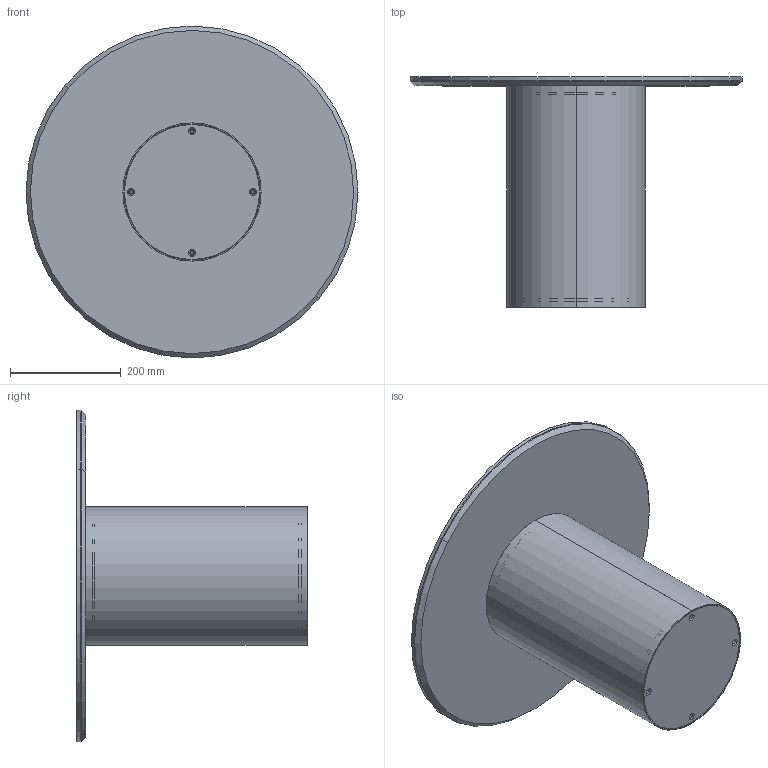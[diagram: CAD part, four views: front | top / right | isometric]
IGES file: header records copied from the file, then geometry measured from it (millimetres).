
Start section: SolidWorks IGES file using analytic representation for surfaces
Global section: file name: Y:\eforma\TECNICO\SOLIDWORKS\E-FORMA\2-TAVOLINI\CILINDRO LOW\02 parts\CL01C.IGS; native system: SolidWorks 2022; preprocessor: SolidWorks 2022; author: eforma.tech; date: 240806.121023; units: millimetre
Bounding box: 600 x 416 x 600 mm (x, y, z)
Volume: 5830699.9 mm3; surface area: 2016119.6 mm2
Topology: 10 solids, 10 shells, 122 faces, 288 edges, 186 vertices
Faces by surface type: revolution 88, plane 34
